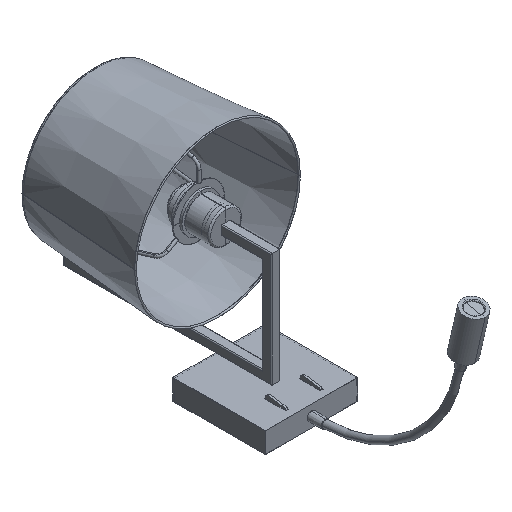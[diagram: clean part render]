
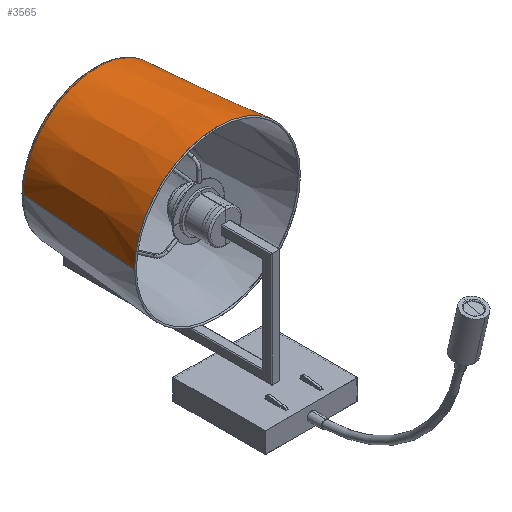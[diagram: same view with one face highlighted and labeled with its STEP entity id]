
A CAD part, isometric view. The second image highlights one B-rep face of the part: STEP entity #3565.
In plain terms, the highlighted conical face has half-angle 4.466 degrees and reference radius 106.184 mm.
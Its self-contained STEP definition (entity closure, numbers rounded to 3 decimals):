
#62=CONICAL_SURFACE('',#3939,106.184,0.078);
#128=B_SPLINE_CURVE_WITH_KNOTS('',3,(#7652,#7653,#7654,#7655,#7656,#7657,
#7658,#7659,#7660,#7661,#7662,#7663),.UNSPECIFIED.,.F.,.F.,(4,1,1,1,1,1,
1,1,1,4),(0.,0.111,0.222,0.333,0.444,
0.556,0.667,0.778,0.889,
1.),.UNSPECIFIED.);
#502=FACE_OUTER_BOUND('',#750,.T.);
#750=EDGE_LOOP('',(#3139,#3140,#3141,#3142));
#1047=LINE('',#7665,#1333);
#1048=LINE('',#7666,#1334);
#1333=VECTOR('',#4896,304.8);
#1334=VECTOR('',#4897,304.8);
#1468=CIRCLE('',#3935,107.419);
#1747=VERTEX_POINT('',#6841);
#1748=VERTEX_POINT('',#7044);
#1749=VERTEX_POINT('',#7251);
#1750=VERTEX_POINT('',#7445);
#2210=EDGE_CURVE('',#1748,#1747,#1468,.T.);
#2214=EDGE_CURVE('',#1749,#1750,#128,.T.);
#2215=EDGE_CURVE('',#1747,#1749,#1047,.T.);
#2216=EDGE_CURVE('',#1750,#1748,#1048,.T.);
#3139=ORIENTED_EDGE('',*,*,#2216,.T.);
#3140=ORIENTED_EDGE('',*,*,#2210,.T.);
#3141=ORIENTED_EDGE('',*,*,#2215,.T.);
#3142=ORIENTED_EDGE('',*,*,#2214,.T.);
#3565=ADVANCED_FACE('',(#502),#62,.T.);
#3935=AXIS2_PLACEMENT_3D('',#7249,#4888,#4889);
#3939=AXIS2_PLACEMENT_3D('',#7667,#4898,#4899);
#4888=DIRECTION('center_axis',(0.,0.,
1.));
#4889=DIRECTION('ref_axis',(-0.588,-0.809,0.));
#4896=DIRECTION('',(0.,0.078,0.997));
#4897=DIRECTION('',(0.,0.078,-0.997));
#4898=DIRECTION('center_axis',(0.,0.,
-1.));
#4899=DIRECTION('ref_axis',(-0.588,-0.809,0.));
#6841=CARTESIAN_POINT('',(0.,-107.419,1.5));
#7044=CARTESIAN_POINT('',(0.,107.419,1.5));
#7249=CARTESIAN_POINT('Origin',(0.,0.,
1.5));
#7251=CARTESIAN_POINT('',(0.,-95.072,159.583));
#7445=CARTESIAN_POINT('',(0.,95.072,159.583));
#7652=CARTESIAN_POINT('Ctrl Pts',(0.,-95.072,
159.583));
#7653=CARTESIAN_POINT('Ctrl Pts',(-11.09,-95.151,159.583));
#7654=CARTESIAN_POINT('Ctrl Pts',(-33.17,-91.134,159.583));
#7655=CARTESIAN_POINT('Ctrl Pts',(-62.368,-74.333,159.583));
#7656=CARTESIAN_POINT('Ctrl Pts',(-84.023,-48.508,159.583));
#7657=CARTESIAN_POINT('Ctrl Pts',(-95.548,-16.849,159.583));
#7658=CARTESIAN_POINT('Ctrl Pts',(-95.548,16.849,159.583));
#7659=CARTESIAN_POINT('Ctrl Pts',(-84.023,48.508,159.583));
#7660=CARTESIAN_POINT('Ctrl Pts',(-62.368,74.333,159.583));
#7661=CARTESIAN_POINT('Ctrl Pts',(-33.17,91.134,159.583));
#7662=CARTESIAN_POINT('Ctrl Pts',(-11.09,95.151,159.583));
#7663=CARTESIAN_POINT('Ctrl Pts',(0.,95.072,
159.583));
#7665=CARTESIAN_POINT('',(0.,-107.419,1.5));
#7666=CARTESIAN_POINT('',(0.,95.072,159.583));
#7667=CARTESIAN_POINT('Origin',(0.,0.,
17.309));
